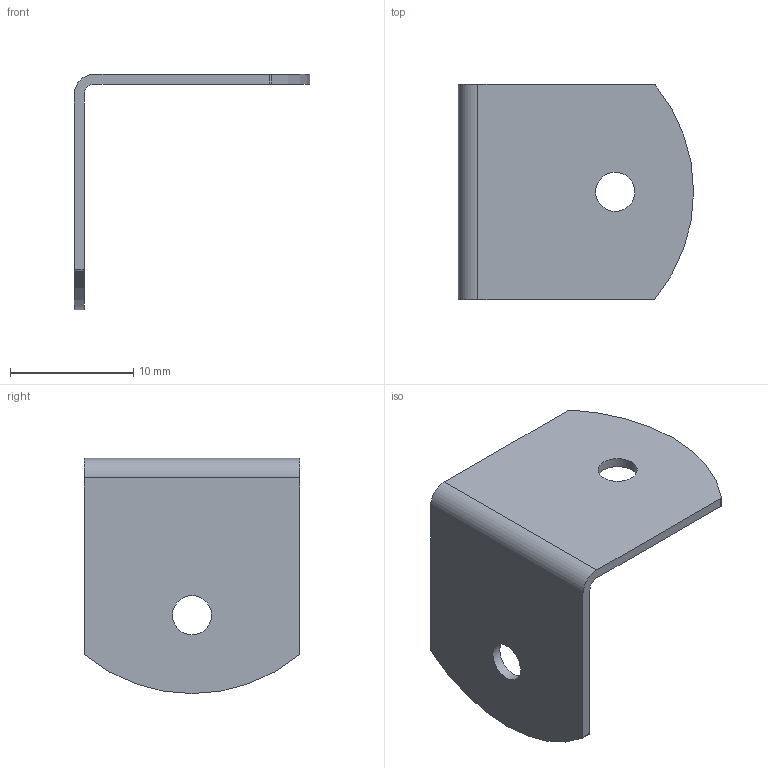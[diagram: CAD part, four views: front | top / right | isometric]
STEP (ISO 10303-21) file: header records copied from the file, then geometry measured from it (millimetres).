
FILE_DESCRIPTION(/* description */ ('STEP AP242','CAx-IF Rec.Pracs.---Representation and Presentation of Product Manufacturing Information (PMI)---4.0---2014-10-13','CAx-IF Rec.Pracs.---3D Tessellated Geometry---0.4---2014-09-14','2;1'),/* implementation_level */ '2;1');
FILE_NAME(/* name */ '67647dc49871004338852e31',/* time_stamp */ '2024-12-19T20:10:45Z',/* author */ (''),/* organization */ (''),/* preprocessor_version */ 'ST-DEVELOPER v20',/* originating_system */ 'ONSHAPE BY PTC INC, 1.191',/* authorisation */ ' ');
FILE_SCHEMA (('AP242_MANAGED_MODEL_BASED_3D_ENGINEERING_MIM_LF { 1 0 10303 442 1 1 4 }'));
Length unit declared in the file: metre
Products named in the file (1): Part 1
Bounding box: 19.05 x 17.46 x 19.05 mm (x, y, z)
Volume: 469.6 mm3; surface area: 1277.5 mm2
Topology: 1 solids, 1 shells, 16 faces, 42 edges, 28 vertices
Faces by surface type: cylinder 10, plane 6
Full cylindrical faces by diameter (mm): 3.175 x2
Entity records: 526 total; most frequent: DIRECTION 94, CARTESIAN_POINT 85, ORIENTED_EDGE 80, EDGE_CURVE 40, AXIS2_PLACEMENT_3D 37, VERTEX_POINT 28, EDGE_LOOP 22, FACE_BOUND 22
